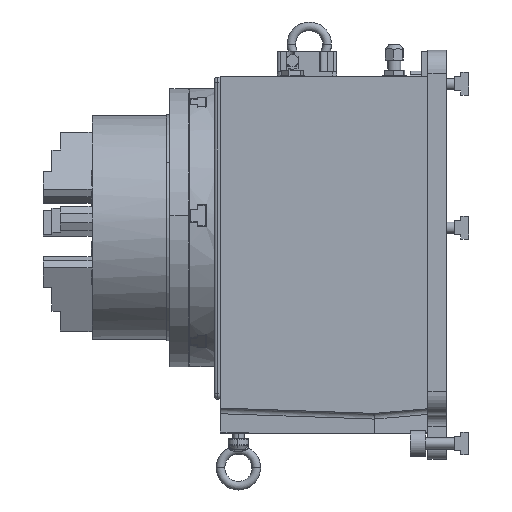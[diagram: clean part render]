
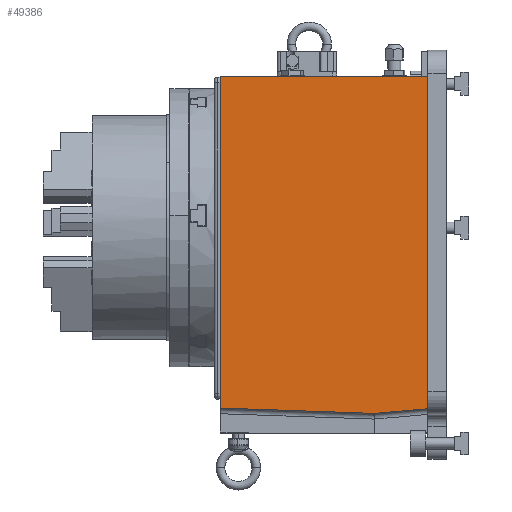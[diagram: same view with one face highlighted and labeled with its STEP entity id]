
A CAD part, left-side view. The second image highlights one B-rep face of the part: STEP entity #49386.
In plain terms, the highlighted planar face has unit normal (-1, 0, 0).
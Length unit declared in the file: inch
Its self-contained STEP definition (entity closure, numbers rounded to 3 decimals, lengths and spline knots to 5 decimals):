
#131 = CARTESIAN_POINT ( 'NONE',  ( -14.304, 9.27, -7.64518 ) ) ;
#1120 = ORIENTED_EDGE ( 'NONE', *, *, #3652, .T. ) ;
#1489 = CARTESIAN_POINT ( 'NONE',  ( -14.304, 0.22821, -7.92687 ) ) ;
#2234 = FACE_OUTER_BOUND ( 'NONE', #23357, .T. ) ;
#3652 = EDGE_CURVE ( 'NONE', #44195, #54943, #38009, .T. ) ;
#4297 = LINE ( 'NONE', #75205, #22444 ) ;
#4451 = VECTOR ( 'NONE', #76682, 39.37008 ) ;
#5221 = AXIS2_PLACEMENT_3D ( 'NONE', #131, #17243, #26008 ) ;
#5257 = CARTESIAN_POINT ( 'NONE',  ( -14.304, 0.21, -7.9246 ) ) ;
#8683 = DIRECTION ( 'NONE',  ( 0., -0.996, 0.087 ) ) ;
#10345 = VERTEX_POINT ( 'NONE', #31967 ) ;
#10430 = EDGE_CURVE ( 'NONE', #57443, #44195, #41795, .T. ) ;
#10498 = CARTESIAN_POINT ( 'NONE',  ( -14.304, 9.31, 6.525 ) ) ;
#12631 = VERTEX_POINT ( 'NONE', #49120 ) ;
#15357 = DIRECTION ( 'NONE',  ( 0., 1., 0. ) ) ;
#17243 = DIRECTION ( 'NONE',  ( -1., 0., 0. ) ) ;
#17710 = DIRECTION ( 'NONE',  ( 0., 0., -1. ) ) ;
#20551 = CIRCLE ( 'NONE', #42223, 0.25 ) ;
#20674 = AXIS2_PLACEMENT_3D ( 'NONE', #60790, #79919, #15357 ) ;
#22444 = VECTOR ( 'NONE', #23825, 39.37008 ) ;
#23257 = VERTEX_POINT ( 'NONE', #35165 ) ;
#23357 = EDGE_LOOP ( 'NONE', ( #46232, #55050, #1120, #71553, #30737, #35723, #83750 ) ) ;
#23825 = DIRECTION ( 'NONE',  ( 0., 1., 0. ) ) ;
#25005 = VECTOR ( 'NONE', #8683, 39.37008 ) ;
#26008 = DIRECTION ( 'NONE',  ( 0., -1., 0. ) ) ;
#26194 = EDGE_CURVE ( 'NONE', #23257, #57443, #68662, .T. ) ;
#29231 = EDGE_CURVE ( 'NONE', #54943, #12631, #33323, .T. ) ;
#30737 = ORIENTED_EDGE ( 'NONE', *, *, #48402, .T. ) ;
#31967 = CARTESIAN_POINT ( 'NONE',  ( -14.304, 0.21, 6.604 ) ) ;
#33040 = CARTESIAN_POINT ( 'NONE',  ( -14.304, 9.27872, -7.89503 ) ) ;
#33323 = LINE ( 'NONE', #1489, #25005 ) ;
#35165 = CARTESIAN_POINT ( 'NONE',  ( -14.304, 9.31, 6.604 ) ) ;
#35283 = CARTESIAN_POINT ( 'NONE',  ( -14.304, 0.25, -7.67782 ) ) ;
#35723 = ORIENTED_EDGE ( 'NONE', *, *, #36598, .F. ) ;
#36598 = EDGE_CURVE ( 'NONE', #10345, #55204, #46483, .T. ) ;
#38009 = LINE ( 'NONE', #57967, #4451 ) ;
#39266 = CARTESIAN_POINT ( 'NONE',  ( -14.304, 0.21, 6.525 ) ) ;
#41795 = CIRCLE ( 'NONE', #5221, 0.25 ) ;
#42223 = AXIS2_PLACEMENT_3D ( 'NONE', #35283, #80330, #48860 ) ;
#44195 = VERTEX_POINT ( 'NONE', #33040 ) ;
#46232 = ORIENTED_EDGE ( 'NONE', *, *, #26194, .T. ) ;
#46483 = LINE ( 'NONE', #39266, #66713 ) ;
#48402 = EDGE_CURVE ( 'NONE', #12631, #55204, #20551, .T. ) ;
#48860 = DIRECTION ( 'NONE',  ( 0., -1., 0. ) ) ;
#49120 = CARTESIAN_POINT ( 'NONE',  ( -14.304, 0.22821, -7.92687 ) ) ;
#49386 = ADVANCED_FACE ( 'NONE', ( #2234 ), #54015, .F. ) ;
#54015 = PLANE ( 'NONE',  #20674 ) ;
#54943 = VERTEX_POINT ( 'NONE', #72385 ) ;
#55050 = ORIENTED_EDGE ( 'NONE', *, *, #10430, .T. ) ;
#55204 = VERTEX_POINT ( 'NONE', #5257 ) ;
#57443 = VERTEX_POINT ( 'NONE', #68933 ) ;
#57967 = CARTESIAN_POINT ( 'NONE',  ( -14.304, 2.55, -8.13 ) ) ;
#59234 = VECTOR ( 'NONE', #17710, 39.37008 ) ;
#60790 = CARTESIAN_POINT ( 'NONE',  ( -14.304, 9.31, 6.525 ) ) ;
#65167 = DIRECTION ( 'NONE',  ( 0., 0., -1. ) ) ;
#66152 = EDGE_CURVE ( 'NONE', #10345, #23257, #4297, .T. ) ;
#66713 = VECTOR ( 'NONE', #65167, 39.37008 ) ;
#68662 = LINE ( 'NONE', #10498, #59234 ) ;
#68933 = CARTESIAN_POINT ( 'NONE',  ( -14.304, 9.31, -7.89196 ) ) ;
#71553 = ORIENTED_EDGE ( 'NONE', *, *, #29231, .T. ) ;
#72385 = CARTESIAN_POINT ( 'NONE',  ( -14.304, 2.55, -8.13 ) ) ;
#75205 = CARTESIAN_POINT ( 'NONE',  ( -14.304, 9.31, 6.604 ) ) ;
#76682 = DIRECTION ( 'NONE',  ( 0., -0.999, -0.035 ) ) ;
#79919 = DIRECTION ( 'NONE',  ( 1., 0., 0. ) ) ;
#80330 = DIRECTION ( 'NONE',  ( -1., 0., 0. ) ) ;
#83750 = ORIENTED_EDGE ( 'NONE', *, *, #66152, .T. ) ;
